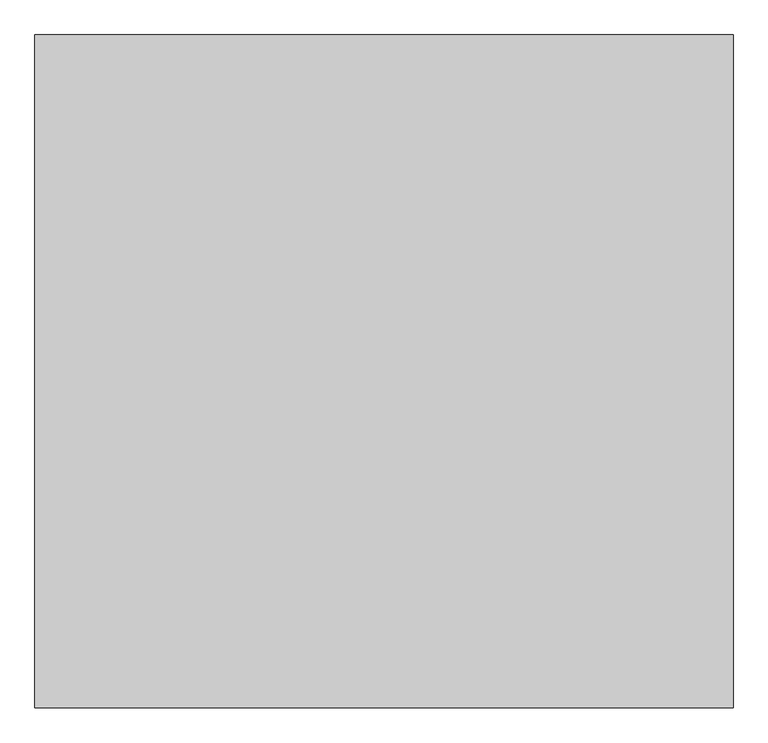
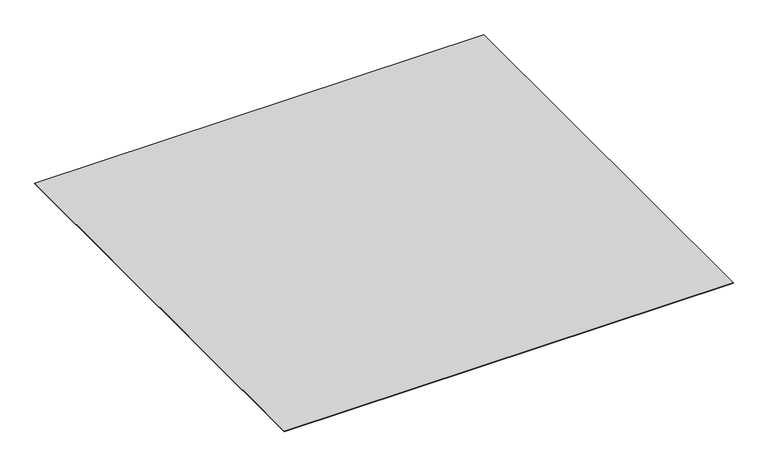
"""IFC4 building model written with IfcOpenShell, lengths in millimetres: proxy geometry, IMPER:IMPER:433934 : IMPER:IMPER:433934."""

from ifc_helpers import new_model, si_unit, frame, origin, place, context, project, spatial, polyline, outline, extrude, source, transform, mapped, element, save


def generic_models_baf530de(model_context):
    return source(origin(), model_context, "Body", "SweptSolid", [
        extrude(outline(polyline([(-351.9704105, 70.8700195), (2123.0295895, 70.8700195), (2123.0295895, -2314.1299805), (-351.9704105, -2314.1299805), (-351.9704105, 70.8700195)])), frame((0.0, 0.0, 2296.4505335), z_axis=(0.0, 0.0, 1.0), x_axis=(1.0, 0.0, 0.0)), (0.0, 0.0, 1.0), 1.0256685),
    ])


if __name__ == "__main__":
    model = new_model("IFC4")
    model_context = context("Model", 3, world=origin())
    ifc_project = project(units=[si_unit("LENGTHUNIT", "METRE", prefix="MILLI")], contexts=[model_context])
    site = spatial("IfcSite", under=ifc_project)
    building = spatial("IfcBuilding", under=site)
    placement = place(None, origin())
    generic_models_shape = generic_models_baf530de(model_context)
    element("IfcBuildingElementProxy", 1, Name="IMPER:IMPER:433934 : IMPER:IMPER:433934", ObjectType="IMPER:IMPER:433934 : IMPER:IMPER:433934", at=placement, inside=building, context=model_context, shape_type="MappedRepresentation", body=[
        mapped(generic_models_shape, transform((0.0, 0.0, 0.0), x_axis=(1.0, 0.0, 0.0), y_axis=(0.0, 1.0, 0.0), z_axis=(0.0, 0.0, 1.0))),
    ])
    save(model, "model.ifc")
